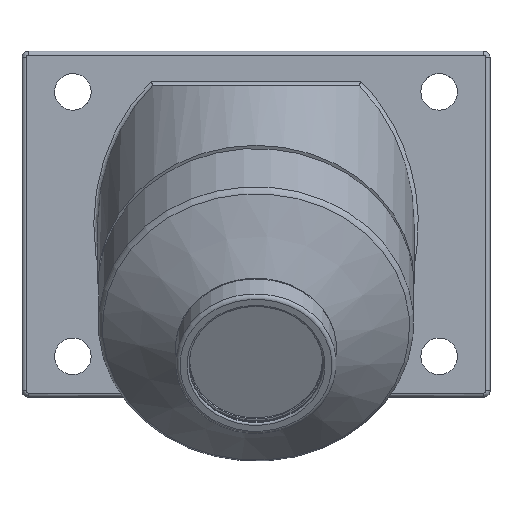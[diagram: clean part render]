
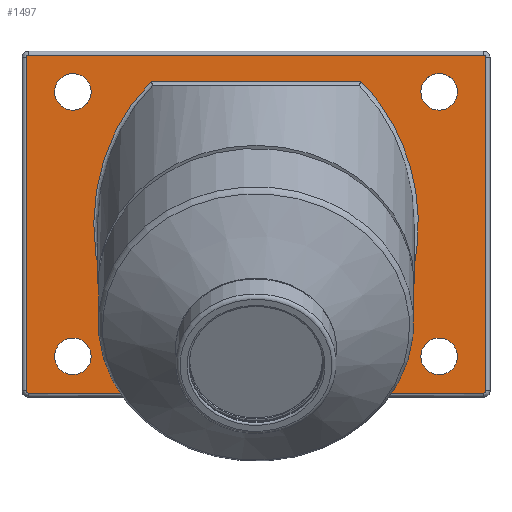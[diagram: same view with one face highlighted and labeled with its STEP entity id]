
A CAD part, top view. The second image highlights one B-rep face of the part: STEP entity #1497.
In plain terms, the highlighted planar face has unit normal (0, 0, 1).
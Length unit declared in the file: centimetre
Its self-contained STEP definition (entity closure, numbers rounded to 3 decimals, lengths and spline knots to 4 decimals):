
#14=LINE('',#2738,#38);
#15=LINE('',#2981,#39);
#16=LINE('',#2985,#40);
#17=LINE('',#2989,#41);
#18=LINE('',#2993,#42);
#19=LINE('',#2996,#43);
#38=VECTOR('',#1929,10.2975);
#39=VECTOR('',#1946,7.6877);
#40=VECTOR('',#1949,16.4);
#41=VECTOR('',#1952,22.4);
#42=VECTOR('',#1955,16.4);
#43=VECTOR('',#1958,7.6877);
#70=ELLIPSE('',#1640,9.2087,7.975);
#73=ELLIPSE('',#1647,9.2087,7.975);
#184=FACE_BOUND('',#436,.T.);
#185=FACE_BOUND('',#437,.T.);
#186=FACE_BOUND('',#438,.T.);
#187=FACE_BOUND('',#439,.T.);
#297=FACE_OUTER_BOUND('',#435,.T.);
#435=EDGE_LOOP('',(#1079,#1080,#1081,#1082,#1083,#1084,#1085,#1086,#1087,
#1088,#1089,#1090));
#436=EDGE_LOOP('',(#1091));
#437=EDGE_LOOP('',(#1092));
#438=EDGE_LOOP('',(#1093));
#439=EDGE_LOOP('',(#1094));
#614=CIRCLE('',#1650,0.1);
#615=CIRCLE('',#1651,0.1);
#616=CIRCLE('',#1652,0.1);
#617=CIRCLE('',#1653,0.1);
#618=CIRCLE('',#1654,0.9);
#619=CIRCLE('',#1655,0.9);
#620=CIRCLE('',#1656,0.9);
#621=CIRCLE('',#1657,0.9);
#729=VERTEX_POINT('',#2711);
#730=VERTEX_POINT('',#2713);
#733=VERTEX_POINT('',#2737);
#740=VERTEX_POINT('',#2899);
#741=VERTEX_POINT('',#2980);
#742=VERTEX_POINT('',#2982);
#743=VERTEX_POINT('',#2984);
#744=VERTEX_POINT('',#2986);
#745=VERTEX_POINT('',#2988);
#746=VERTEX_POINT('',#2990);
#747=VERTEX_POINT('',#2992);
#748=VERTEX_POINT('',#2994);
#749=VERTEX_POINT('',#2997);
#750=VERTEX_POINT('',#2999);
#751=VERTEX_POINT('',#3001);
#752=VERTEX_POINT('',#3003);
#865=EDGE_CURVE('',#729,#730,#70,.T.);
#869=EDGE_CURVE('',#730,#733,#14,.T.);
#881=EDGE_CURVE('',#733,#740,#73,.T.);
#883=EDGE_CURVE('',#741,#729,#15,.T.);
#884=EDGE_CURVE('',#742,#741,#614,.T.);
#885=EDGE_CURVE('',#743,#742,#16,.T.);
#886=EDGE_CURVE('',#744,#743,#615,.T.);
#887=EDGE_CURVE('',#745,#744,#17,.T.);
#888=EDGE_CURVE('',#746,#745,#616,.T.);
#889=EDGE_CURVE('',#747,#746,#18,.T.);
#890=EDGE_CURVE('',#748,#747,#617,.T.);
#891=EDGE_CURVE('',#740,#748,#19,.T.);
#892=EDGE_CURVE('',#749,#749,#618,.T.);
#893=EDGE_CURVE('',#750,#750,#619,.T.);
#894=EDGE_CURVE('',#751,#751,#620,.T.);
#895=EDGE_CURVE('',#752,#752,#621,.T.);
#1079=ORIENTED_EDGE('',*,*,#881,.F.);
#1080=ORIENTED_EDGE('',*,*,#869,.F.);
#1081=ORIENTED_EDGE('',*,*,#865,.F.);
#1082=ORIENTED_EDGE('',*,*,#883,.F.);
#1083=ORIENTED_EDGE('',*,*,#884,.F.);
#1084=ORIENTED_EDGE('',*,*,#885,.F.);
#1085=ORIENTED_EDGE('',*,*,#886,.F.);
#1086=ORIENTED_EDGE('',*,*,#887,.F.);
#1087=ORIENTED_EDGE('',*,*,#888,.F.);
#1088=ORIENTED_EDGE('',*,*,#889,.F.);
#1089=ORIENTED_EDGE('',*,*,#890,.F.);
#1090=ORIENTED_EDGE('',*,*,#891,.F.);
#1091=ORIENTED_EDGE('',*,*,#892,.T.);
#1092=ORIENTED_EDGE('',*,*,#893,.T.);
#1093=ORIENTED_EDGE('',*,*,#894,.T.);
#1094=ORIENTED_EDGE('',*,*,#895,.T.);
#1321=PLANE('',#1649);
#1497=ADVANCED_FACE('',(#297,#184,#185,#186,#187),#1321,.T.);
#1640=AXIS2_PLACEMENT_3D('',#2714,#1924,#1925);
#1647=AXIS2_PLACEMENT_3D('',#2977,#1940,#1941);
#1649=AXIS2_PLACEMENT_3D('',#2979,#1944,#1945);
#1650=AXIS2_PLACEMENT_3D('',#2983,#1947,#1948);
#1651=AXIS2_PLACEMENT_3D('',#2987,#1950,#1951);
#1652=AXIS2_PLACEMENT_3D('',#2991,#1953,#1954);
#1653=AXIS2_PLACEMENT_3D('',#2995,#1956,#1957);
#1654=AXIS2_PLACEMENT_3D('',#2998,#1959,#1960);
#1655=AXIS2_PLACEMENT_3D('',#3000,#1961,#1962);
#1656=AXIS2_PLACEMENT_3D('',#3002,#1963,#1964);
#1657=AXIS2_PLACEMENT_3D('',#3004,#1965,#1966);
#1924=DIRECTION('center_axis',(0.,0.,
1.));
#1925=DIRECTION('ref_axis',(0.,-1.,0.));
#1929=DIRECTION('',(-1.,0.,0.));
#1940=DIRECTION('center_axis',(0.,0.,
1.));
#1941=DIRECTION('ref_axis',(0.,-1.,0.));
#1944=DIRECTION('center_axis',(0.,0.,
1.));
#1945=DIRECTION('ref_axis',(-1.,0.,0.));
#1946=DIRECTION('',(-1.,0.,0.));
#1947=DIRECTION('center_axis',(0.,0.,
-1.));
#1948=DIRECTION('ref_axis',(0.707,-0.707,0.));
#1949=DIRECTION('',(0.,-1.,0.));
#1950=DIRECTION('center_axis',(0.,0.,
-1.));
#1951=DIRECTION('ref_axis',(0.707,0.707,0.));
#1952=DIRECTION('',(1.,0.,0.));
#1953=DIRECTION('center_axis',(0.,0.,
-1.));
#1954=DIRECTION('ref_axis',(-0.707,0.707,0.));
#1955=DIRECTION('',(0.,1.,0.));
#1956=DIRECTION('center_axis',(0.,0.,
-1.));
#1957=DIRECTION('ref_axis',(-0.707,-0.707,0.));
#1958=DIRECTION('',(-1.,0.,0.));
#1959=DIRECTION('center_axis',(0.,0.,
-1.));
#1960=DIRECTION('ref_axis',(1.,0.,0.));
#1961=DIRECTION('center_axis',(0.,0.,
-1.));
#1962=DIRECTION('ref_axis',(1.,0.,0.));
#1963=DIRECTION('center_axis',(0.,0.,
-1.));
#1964=DIRECTION('ref_axis',(1.,0.,0.));
#1965=DIRECTION('center_axis',(0.,0.,
-1.));
#1966=DIRECTION('ref_axis',(1.,0.,0.));
#2711=CARTESIAN_POINT('',(3.5123,-4.673,2.3));
#2713=CARTESIAN_POINT('',(5.1487,10.627,2.3));
#2714=CARTESIAN_POINT('Origin',(0.,3.5946,2.3));
#2737=CARTESIAN_POINT('',(-5.1487,10.627,2.3));
#2738=CARTESIAN_POINT('',(-4.2159,10.627,2.3));
#2899=CARTESIAN_POINT('',(-3.5123,-4.673,2.3));
#2977=CARTESIAN_POINT('Origin',(0.,3.5946,2.3));
#2979=CARTESIAN_POINT('Origin',(0.,3.627,2.3));
#2980=CARTESIAN_POINT('',(11.2,-4.673,2.3));
#2981=CARTESIAN_POINT('',(-5.75,-4.673,2.3));
#2982=CARTESIAN_POINT('',(11.3,-4.573,2.3));
#2983=CARTESIAN_POINT('Origin',(11.2,-4.573,2.3));
#2984=CARTESIAN_POINT('',(11.3,11.827,2.3));
#2985=CARTESIAN_POINT('',(11.3,-0.623,2.3));
#2986=CARTESIAN_POINT('',(11.2,11.927,2.3));
#2987=CARTESIAN_POINT('Origin',(11.2,11.827,2.3));
#2988=CARTESIAN_POINT('',(-11.2,11.927,2.3));
#2989=CARTESIAN_POINT('',(5.75,11.927,2.3));
#2990=CARTESIAN_POINT('',(-11.3,11.827,2.3));
#2991=CARTESIAN_POINT('Origin',(-11.2,11.827,2.3));
#2992=CARTESIAN_POINT('',(-11.3,-4.573,2.3));
#2993=CARTESIAN_POINT('',(-11.3,7.877,2.3));
#2994=CARTESIAN_POINT('',(-11.2,-4.673,2.3));
#2995=CARTESIAN_POINT('Origin',(-11.2,-4.573,2.3));
#2996=CARTESIAN_POINT('',(-5.75,-4.673,2.3));
#2997=CARTESIAN_POINT('',(-8.4319,10.825,2.3));
#2998=CARTESIAN_POINT('Origin',(-9.,10.127,2.3));
#2999=CARTESIAN_POINT('',(-8.1,-2.873,2.3));
#3000=CARTESIAN_POINT('Origin',(-9.,-2.873,2.3));
#3001=CARTESIAN_POINT('',(9.9,10.127,2.3));
#3002=CARTESIAN_POINT('Origin',(9.,10.127,2.3));
#3003=CARTESIAN_POINT('',(9.9,-2.873,2.3));
#3004=CARTESIAN_POINT('Origin',(9.,-2.873,2.3));
